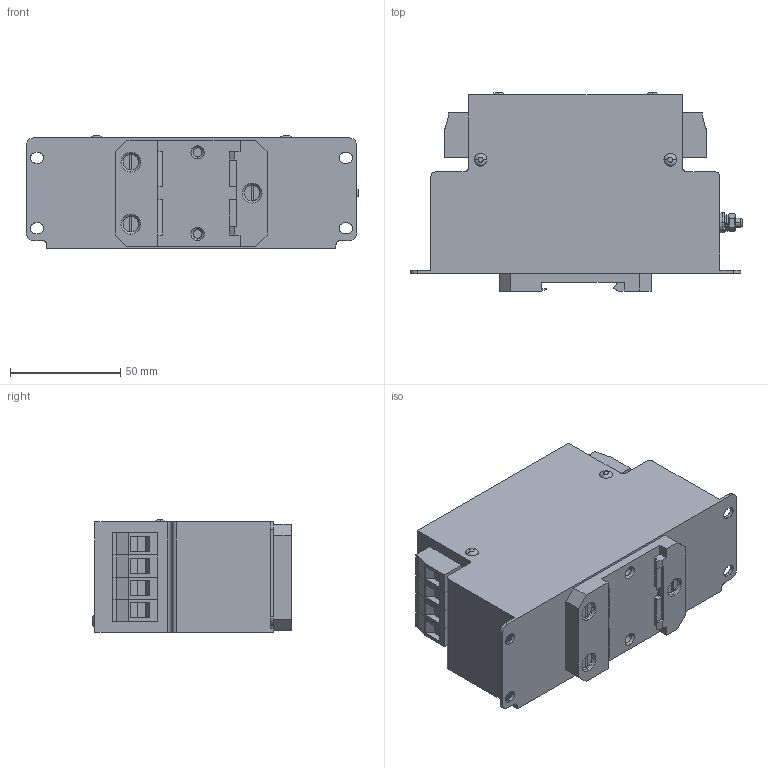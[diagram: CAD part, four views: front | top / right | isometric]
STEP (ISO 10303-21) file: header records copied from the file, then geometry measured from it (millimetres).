
FILE_DESCRIPTION (( 'STEP AP203' ), '1' );
FILE_NAME ('NF-4-20-BFG-CD.STEP', '2021-08-04T07:37:27', ( '' ), ( '' ), 'SwSTEP 2.0', 'SolidWorks 2021', '' );
FILE_SCHEMA (( 'CONFIG_CONTROL_DESIGN' ));
Length unit declared in the file: millimetre
Products named in the file (7): 200708250_VDFK_4_SELECT; 20NF-4-10-BFG_BFG-CD; 20Federring M4; 20Unterlegscheibe M4-Ø9; 20Mutter M4; NF-4-20-BFG-CD; 20Senkkopfschraube M4x8
Assembly tree (16 placements, depth 2):
  NF-4-20-BFG-CD
    20NF-4-10-BFG_BFG-CD
    200708250_VDFK_4_SELECT  x8
    20Unterlegscheibe M4-Ø9  x2
    20Senkkopfschraube M4x8  x3
    20Federring M4
    20Mutter M4
Bounding box: 150.5 x 90 x 51 mm (x, y, z)
Volume: 510845.8 mm3; surface area: 57146.9 mm2
Topology: 16 solids, 16 shells, 570 faces, 1340 edges, 867 vertices
Faces by surface type: plane 339, cylinder 183, cone 18, torus 12, bspline 10, sphere 8
Entity records: 9393 total; most frequent: CARTESIAN_POINT 2627, DIRECTION 1250, ORIENTED_EDGE 1154, EDGE_CURVE 577, AXIS2_PLACEMENT_3D 444, VERTEX_POINT 363, LINE 362, VECTOR 362
